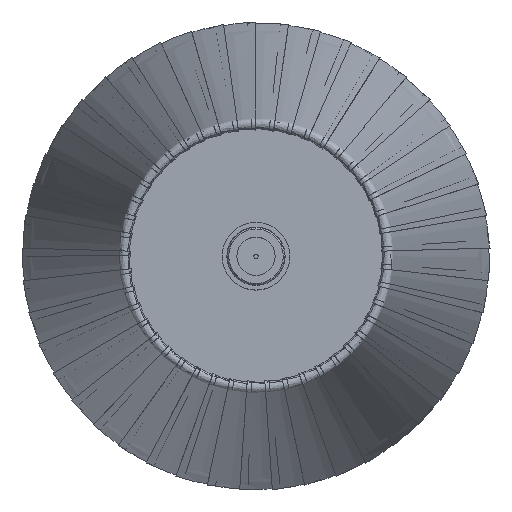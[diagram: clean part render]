
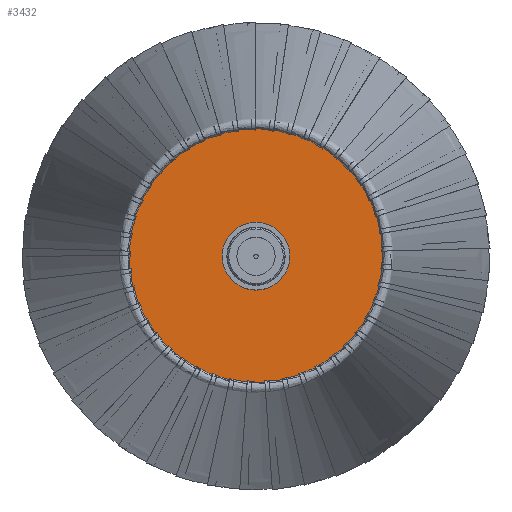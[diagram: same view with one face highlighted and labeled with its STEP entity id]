
A CAD part, top view. The second image highlights one B-rep face of the part: STEP entity #3432.
In plain terms, the highlighted planar face has unit normal (0, 0, 1).
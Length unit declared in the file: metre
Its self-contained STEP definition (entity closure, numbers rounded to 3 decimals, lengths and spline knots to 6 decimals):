
#3432 = ADVANCED_FACE( '', ( #3992, #3993 ), #3994, .T. );
#3992 = FACE_BOUND( '', #12408, .T. );
#3993 = FACE_OUTER_BOUND( '', #12409, .T. );
#3994 = PLANE( '', #12410 );
#12408 = EDGE_LOOP( '', ( #34234 ) );
#12409 = EDGE_LOOP( '', ( #34235 ) );
#12410 = AXIS2_PLACEMENT_3D( '', #34236, #34237, #34238 );
#34234 = ORIENTED_EDGE( '', *, *, #36020, .T. );
#34235 = ORIENTED_EDGE( '', *, *, #36016, .F. );
#34236 = CARTESIAN_POINT( '', ( 37.835824, -0.372341, -0.550254 ) );
#34237 = DIRECTION( '', ( 0., 0., 1. ) );
#34238 = DIRECTION( '', ( 0., -1., 0. ) );
#36016 = EDGE_CURVE( '', #36507, #36507, #36508, .T. );
#36020 = EDGE_CURVE( '', #36515, #36515, #36516, .T. );
#36507 = VERTEX_POINT( '', #40529 );
#36508 = CIRCLE( '', #40530, 0.1 );
#36515 = VERTEX_POINT( '', #40537 );
#36516 = CIRCLE( '', #40538, 0.00325 );
#40529 = CARTESIAN_POINT( '', ( 37.862449, -0.372341, -0.550254 ) );
#40530 = AXIS2_PLACEMENT_3D( '', #50296, #50297, #50298 );
#40537 = CARTESIAN_POINT( '', ( 37.959199, -0.372341, -0.550254 ) );
#40538 = AXIS2_PLACEMENT_3D( '', #50308, #50309, #50310 );
#50296 = CARTESIAN_POINT( '', ( 37.962449, -0.372341, -0.550254 ) );
#50297 = DIRECTION( '', ( 0., 0., -1. ) );
#50298 = DIRECTION( '', ( 1., 0., 0. ) );
#50308 = CARTESIAN_POINT( '', ( 37.962449, -0.372341, -0.550254 ) );
#50309 = DIRECTION( '', ( 0., 0., -1. ) );
#50310 = DIRECTION( '', ( -1., 0., 0. ) );
